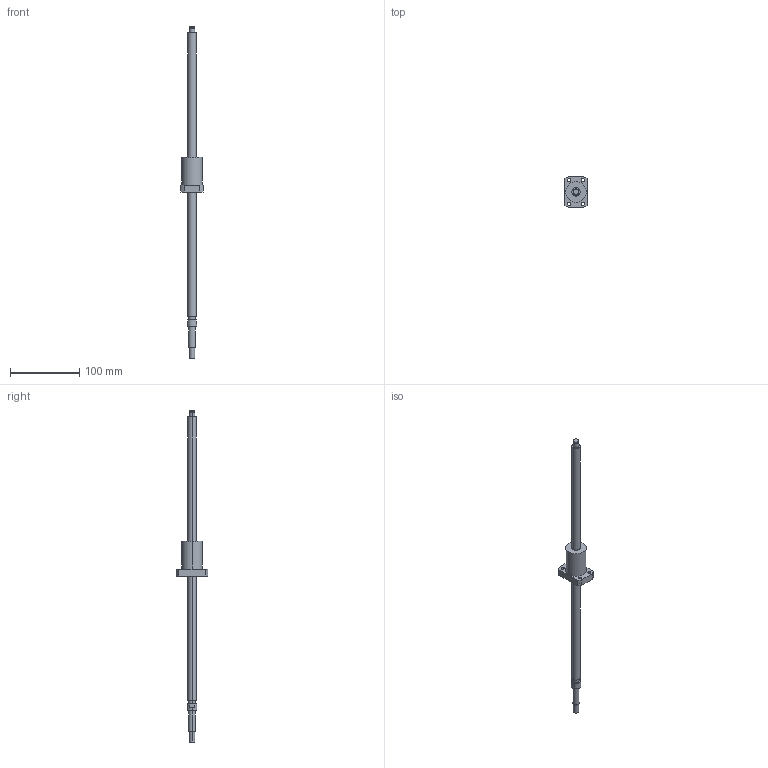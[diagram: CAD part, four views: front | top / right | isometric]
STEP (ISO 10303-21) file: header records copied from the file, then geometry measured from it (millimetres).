
FILE_DESCRIPTION((''),'2;1');
FILE_NAME('R12-10B1-FSW-410-480','2008-03-28T',('mahdi'),(''),'PRO/ENGINEER BY PARAMETRIC TECHNOLOGY CORPORATION, 2005070','PRO/ENGINEER BY PARAMETRIC TECHNOLOGY CORPORATION, 2005070','');
FILE_SCHEMA(('CONFIG_CONTROL_DESIGN'));
Length unit declared in the file: millimetre
Products named in the file (1): R12-10B1-FSW-410-480
Bounding box: 32 x 45 x 480 mm (x, y, z)
Volume: 87351 mm3; surface area: 24553.3 mm2
Topology: 1 solids, 1 shells, 64 faces, 144 edges, 96 vertices
Faces by surface type: cylinder 40, plane 24
Entity records: 1886 total; most frequent: DIRECTION 356, CARTESIAN_POINT 304, ORIENTED_EDGE 288, AXIS2_PLACEMENT_3D 148, EDGE_CURVE 144, VERTEX_POINT 96, EDGE_LOOP 86, CIRCLE 84
